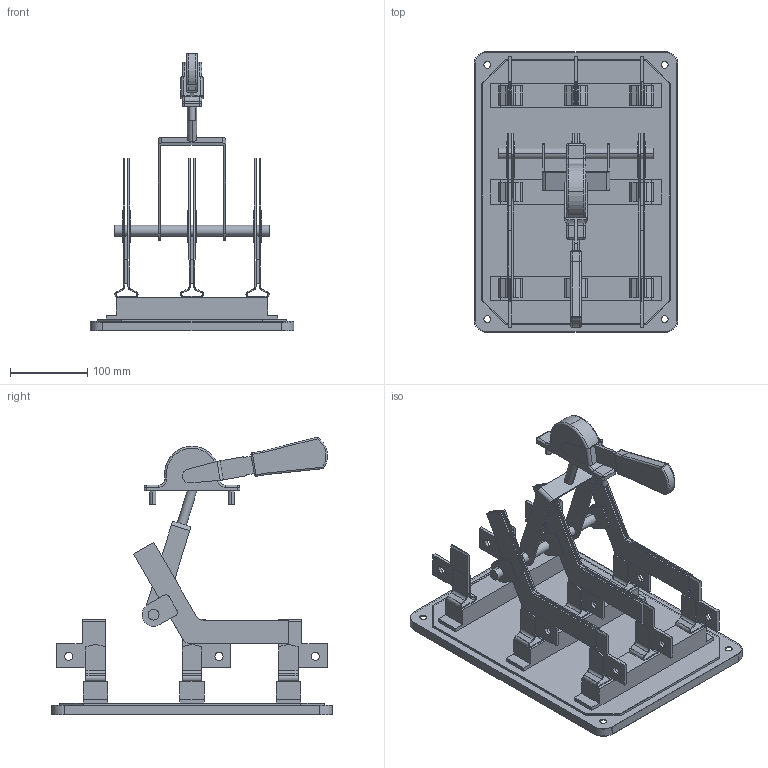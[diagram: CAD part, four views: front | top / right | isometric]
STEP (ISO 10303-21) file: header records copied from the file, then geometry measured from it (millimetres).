
FILE_DESCRIPTION (( 'STEP AP214' ), '1' );
FILE_NAME ('Ïåðåêëþ÷àòåëü ÏÖ-4-400À-Ó3-ÊÝÀÇ.STEP', '2023-05-01T19:49:40', ( '' ), ( '' ), 'SwSTEP 2.0', 'SolidWorks 2018', '' );
FILE_SCHEMA (( 'AUTOMOTIVE_DESIGN' ));
Length unit declared in the file: millimetre
Products named in the file (1): Ïåðåêëþ÷àòåëü ÏÖ-4-400À-Ó3-ÊÝÀÇ
Bounding box: 264 x 364 x 359.53 mm (x, y, z)
Volume: 1135887.6 mm3; surface area: 514808.7 mm2
Topology: 7 solids, 7 shells, 649 faces, 1786 edges, 1145 vertices
Faces by surface type: plane 376, cylinder 247, sphere 14, torus 12
Entity records: 27830 total; most frequent: CARTESIAN_POINT 3595, DIRECTION 3593, ORIENTED_EDGE 3556, EDGE_CURVE 1778, VECTOR 1247, LINE 1247, AXIS2_PLACEMENT_3D 1173, VERTEX_POINT 1143
